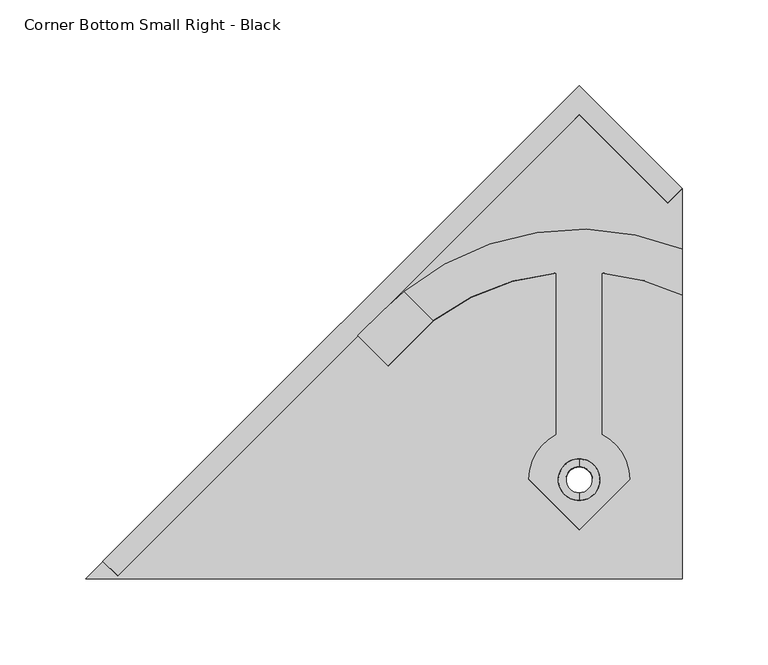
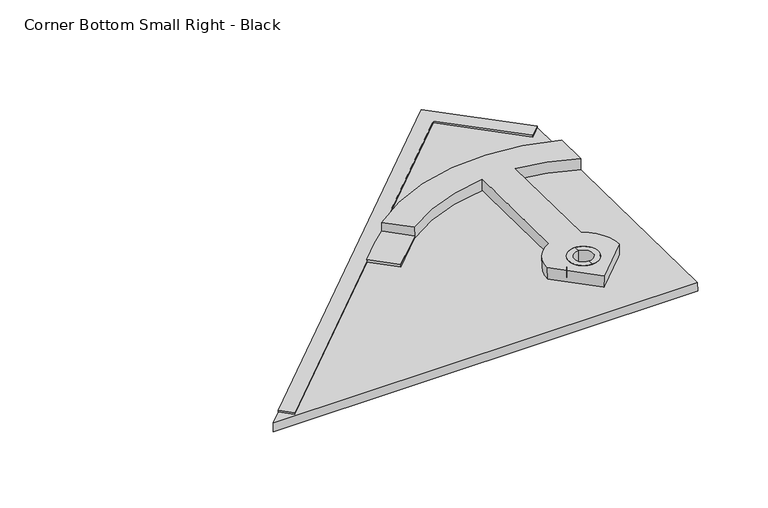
"""IFC4 building model written with IfcOpenShell, lengths in millimetres: proxy geometry, Roofing_Panels_SunStyle_Tile_Corner-Bottom-Small-Right : Corner Bottom Small Right - Black."""

from ifc_helpers import new_model, si_unit, point, frame, frame_2d, origin, place, context, project, spatial, polyline, circle_curve, trimmed, segment, composite_curve, outline, extrude, source, transform, mapped, element, save
from ifc_brep_helpers import plane_surface, cylinder_surface, revolved_surface, advanced_brep


def corner_bottom_small_right_black_c7c14b37(model_context):
    return source(origin(), model_context, "Body", "SolidModel", [
        extrude(outline(polyline([(-1e-07, -12.0), (0.0, 0.0), (392.6049641, 0.0), (392.6168819, -84.9940404), (380.616882, -84.995723), (380.6066466, -12.0), (-1e-07, -12.0)])), frame((-277.6334177, 337.4278406, 10.6525475), z_axis=(0.0, 0.016745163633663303, 0.9998597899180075), x_axis=(0.7071563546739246, 0.7069580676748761, -0.01183978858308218)), (0.0, 0.0, 1.0), 1.5),
        advanced_brep(
        [(0.0, 377.4541932, 19.983608), (0.0, 392.7869941, 19.7268217), (0.0, 397.2863628, 19.6514685), (0.0, 372.9548245, 20.0589612), (0.0, 377.186271, 3.9858513), (0.0, 392.5190711, 3.7290651), (0.0, 372.6869019, 4.0612046), (0.0, 397.0184401, 3.6537119)],
        [
            (0, 1, circle_curve(frame((0.0, 385.1205936, 19.8552149), z_axis=(0.0, -0.016745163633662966, -0.9998597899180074), x_axis=(0.0, 0.9998597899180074, -0.016745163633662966)), 7.6674755)),
            (1, 2),
            (2, 3, circle_curve(frame((0.0, 385.1205936, 19.8552149), z_axis=(0.0, 0.016745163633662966, 0.9998597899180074), x_axis=(0.0, 0.9998597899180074, -0.016745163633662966)), 12.1674751)),
            (3, 0),
            (1, 0, circle_curve(frame((0.0, 385.1205936, 19.8552149), z_axis=(0.0, -0.016745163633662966, -0.9998597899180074), x_axis=(0.0, 0.9998597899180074, -0.016745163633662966)), 7.6674755)),
            (3, 2, circle_curve(frame((0.0, 385.1205936, 19.8552149), z_axis=(0.0, 0.016745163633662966, 0.9998597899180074), x_axis=(0.0, 0.9998597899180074, -0.016745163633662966)), 12.1674751)),
            (4, 5, circle_curve(frame((0.0, 384.852671, 3.8574582), z_axis=(0.0, -0.016745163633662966, -0.9998597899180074), x_axis=(0.0, 0.9998597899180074, -0.016745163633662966)), 7.6674751)),
            (5, 1),
            (0, 4),
            (5, 4, circle_curve(frame((0.0, 384.852671, 3.8574582), z_axis=(0.0, -0.016745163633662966, -0.9998597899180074), x_axis=(0.0, 0.9998597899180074, -0.016745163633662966)), 7.6674751)),
            (6, 7, circle_curve(frame((0.0, 384.852671, 3.8574582), z_axis=(0.0, -0.016745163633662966, -0.9998597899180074), x_axis=(0.0, 0.9998597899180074, -0.016745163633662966)), 12.1674751)),
            (7, 5),
            (4, 6),
            (7, 6, circle_curve(frame((0.0, 384.852671, 3.8574582), z_axis=(0.0, -0.016745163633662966, -0.9998597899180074), x_axis=(0.0, 0.9998597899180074, -0.016745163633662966)), 12.1674751)),
            (2, 7),
            (6, 3),
        ],
        [
            plane_surface(frame((0.0, 385.1205936, 19.8552149), z_axis=(0.0, 0.016745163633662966, 0.9998597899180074), x_axis=(0.0, 0.9998597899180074, -0.016745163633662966))),
            revolved_surface(polyline([(0.0, 392.78699364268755, 19.726821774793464), (0.0, 392.5190710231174, 3.729065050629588)]), (0.0, 385.1205936, 19.8552149), (0.0, 0.016745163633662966, 0.9998597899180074)),
            plane_surface(frame((0.0, 384.852671, 3.8574582), z_axis=(0.0, -0.016745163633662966, -0.9998597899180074), x_axis=(0.0, 0.9998597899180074, -0.016745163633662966))),
            cylinder_surface(frame((0.0, 385.1205936, 19.8552149), z_axis=(0.0, 0.016745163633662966, 0.9998597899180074), x_axis=(0.0, 0.9998597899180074, -0.016745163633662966)), 12.1674751),
        ],
        [
            (0, [[1, 2, 3, 4]]),
            (0, [[5, -4, 6, -2]]),
            (1, [[7, 8, -1, 9]]),
            (1, [[10, -9, -5, -8]]),
            (2, [[11, 12, -7, 13]]),
            (2, [[14, -13, -10, -12]]),
            (3, [[-3, 15, -11, 16]]),
            (3, [[-6, -16, -14, -15]]),
        ],
    ),
        extrude(outline(polyline([(230.2296775, 12.0003225), (170.1340284, -48.1037539), (-57.391205, -48.1037539), (-57.391205, 299.6615381), (230.2296775, 12.0003225)]), holes=[composite_curve([segment(trimmed(circle_curve(frame_2d((0.0, 12.0)), 12.0), [point((0.0, 24.0))], [point((0.0, 0.0))], True, "CARTESIAN"), True, "CONTINUOUS"), segment(trimmed(circle_curve(frame_2d((0.0, 12.0)), 12.0), [point((0.0, 0.0))], [point((0.0, 24.0))], True, "CARTESIAN"), True, "CONTINUOUS")], self_intersect=False)]), frame((12.0, 384.6601016, 2.3604729), z_axis=(0.0, 0.01674516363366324, 0.9998597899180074), x_axis=(0.0, 0.9998597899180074, -0.01674516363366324)), (0.0, 0.0, 1.0), 7.5),
        advanced_brep(
        [(-128.9467134, 469.1477223, 10.9469178), (-111.2690438, 451.4725314, 11.2429333), (-84.9431983, 477.7946858, 10.8021027), (-102.0275718, 494.8742688, 10.5160622), (-114.2509691, 483.8393459, 10.7008697), (-128.9467134, 469.1058594, 8.4472683), (-114.2509691, 483.797483, 8.2012202), (-102.0275718, 494.8324058, 8.0164127), (60.1037539, 519.5218584, 7.6029258), (60.1037539, 492.7956258, 8.0505237), (13.3, 505.6435355, 7.8353532), (13.3, 411.3247133, 9.4149588), (29.3894281, 385.1205936, 9.8538126), (0.0, 355.7352863, 10.3459433), (-29.3894281, 385.1205936, 9.8538126), (-13.3, 411.3247133, 9.4149588), (-13.3, 505.6435355, 7.8353532), (-84.944396, 477.7516253, 8.3024733), (-111.2690438, 451.4306685, 8.7432838), (12.0, 385.1205936, 9.8538126), (-12.0, 385.1205936, 9.8538126), (60.1037539, 519.6893101, 17.6015237), (-102.0275718, 494.9998575, 18.0150106), (-84.944396, 477.9190769, 18.3010712), (-13.3, 505.8109871, 17.8339511), (-13.3, 411.492165, 19.4135567), (-29.3894281, 385.2880453, 19.8524105), (0.0, 355.9027379, 20.3445412), (29.3894281, 385.2880453, 19.8524105), (13.3, 411.492165, 19.4135567), (13.3, 505.8109871, 17.8339511), (60.1037539, 492.9630774, 18.0491216), (12.0, 385.2880453, 19.8524105), (-12.0, 385.2880453, 19.8524105)],
        [
            (0, 1),
            (1, 2),
            (2, 3),
            (3, 4, circle_curve(frame((0.0, 369.6043959, 12.6140208), z_axis=(0.0, 0.01674516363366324, 0.9998597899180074), x_axis=(-1.0, 0.0, 0.0)), 161.57527)),
            (4, 0),
            (5, 6),
            (6, 7, circle_curve(frame((0.0, 369.562533, 10.1143714), z_axis=(0.0, -0.01674516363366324, -0.9998597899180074), x_axis=(-1.0, 0.0, 0.0)), 161.57527)),
            (7, 8, circle_curve(frame((0.0, 369.562533, 10.1143714), z_axis=(0.0, -0.01674516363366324, -0.9998597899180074), x_axis=(-1.0, 0.0, 0.0)), 161.57527)),
            (8, 9),
            (9, 10, circle_curve(frame((0.0, 365.5555068, 10.1814791), z_axis=(0.0, 0.01674516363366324, 0.9998597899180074), x_axis=(-1.0, 0.0, 0.0)), 140.737522)),
            (10, 11),
            (11, 12, circle_curve(frame((0.0, 385.1205936, 9.8538126), z_axis=(0.0, -0.01674516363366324, -0.9998597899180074), x_axis=(-1.0, 0.0, 0.0)), 29.3894281)),
            (12, 13),
            (13, 14),
            (14, 15, circle_curve(frame((0.0, 385.1205936, 9.8538126), z_axis=(0.0, -0.01674516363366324, -0.9998597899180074), x_axis=(-1.0, 0.0, 0.0)), 29.3894281)),
            (15, 16),
            (16, 17, circle_curve(frame((0.0, 365.5555068, 10.1814791), z_axis=(0.0, 0.01674516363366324, 0.9998597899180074), x_axis=(-1.0, 0.0, 0.0)), 140.737522)),
            (17, 18),
            (18, 5),
            (19, 20, circle_curve(frame((0.0, 385.1205936, 9.8538126), z_axis=(0.0, 0.01674516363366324, 0.9998597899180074), x_axis=(-1.0, 0.0, 0.0)), 12.0)),
            (20, 19, circle_curve(frame((0.0, 385.1205936, 9.8538126), z_axis=(0.0, 0.01674516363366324, 0.9998597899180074), x_axis=(-1.0, 0.0, 0.0)), 12.0)),
            (4, 6),
            (5, 0),
            (18, 1),
            (3, 7),
            (17, 2),
            (21, 22, circle_curve(frame((0.0, 369.7299846, 20.1129693), z_axis=(0.0, 0.01674516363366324, 0.9998597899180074), x_axis=(-1.0, 0.0, 0.0)), 161.57527)),
            (22, 23),
            (23, 24, circle_curve(frame((0.0, 365.7229584, 20.180077), z_axis=(0.0, -0.01674516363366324, -0.9998597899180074), x_axis=(-1.0, 0.0, 0.0)), 140.737522)),
            (24, 25),
            (25, 26, circle_curve(frame((0.0, 385.2880453, 19.8524105), z_axis=(0.0, 0.01674516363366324, 0.9998597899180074), x_axis=(-1.0, 0.0, 0.0)), 29.3894281)),
            (26, 27),
            (27, 28),
            (28, 29, circle_curve(frame((0.0, 385.2880453, 19.8524105), z_axis=(0.0, 0.01674516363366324, 0.9998597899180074), x_axis=(-1.0, 0.0, 0.0)), 29.3894281)),
            (29, 30),
            (30, 31, circle_curve(frame((0.0, 365.7229584, 20.180077), z_axis=(0.0, -0.01674516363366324, -0.9998597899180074), x_axis=(-1.0, 0.0, 0.0)), 140.737522)),
            (31, 21),
            (32, 33, circle_curve(frame((0.0, 385.2880453, 19.8524105), z_axis=(0.0, -0.01674516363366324, -0.9998597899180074), x_axis=(-1.0, 0.0, 0.0)), 12.0)),
            (33, 32, circle_curve(frame((0.0, 385.2880453, 19.8524105), z_axis=(0.0, -0.01674516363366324, -0.9998597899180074), x_axis=(-1.0, 0.0, 0.0)), 12.0)),
            (29, 11),
            (10, 30),
            (28, 12),
            (27, 13),
            (26, 14),
            (25, 15),
            (24, 16),
            (21, 8),
            (3, 22),
            (33, 20),
            (19, 32),
            (2, 23),
            (9, 31),
        ],
        [
            plane_surface(frame((0.0, 340.2190886, 13.1061516), z_axis=(0.0, 0.016745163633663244, 0.9998597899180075), x_axis=(0.7071067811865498, -0.7070076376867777, 0.01184061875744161))),
            plane_surface(frame((0.0, 340.1772257, 10.6065021), z_axis=(0.0, -0.016745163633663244, -0.9998597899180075), x_axis=(-0.7071067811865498, 0.7070076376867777, -0.01184061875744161))),
            plane_surface(frame((-114.2509691, 483.8393459, 10.7008697), z_axis=(-0.7070572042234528, 0.7070572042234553, -0.011841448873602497), x_axis=(0.0, -0.016745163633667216, -0.9998597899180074))),
            plane_surface(frame((-128.9467134, 469.1477223, 10.9469178), z_axis=(-0.7071067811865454, -0.7070076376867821, 0.011840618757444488), x_axis=(0.0, -0.016745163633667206, -0.9998597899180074))),
            cylinder_surface(frame((0.0, 369.562533, 10.1143714), z_axis=(0.0, 0.01674516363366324, 0.9998597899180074), x_axis=(-1.0, 0.0, 0.0)), 161.57527),
            plane_surface(frame((-111.2690438, 451.4725314, 11.2429333), z_axis=(0.7071067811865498, -0.7070076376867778, 0.011840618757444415), x_axis=(0.0, -0.016745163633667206, -0.9998597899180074))),
            plane_surface(frame((-161.57527, 369.7299846, 20.1129693), z_axis=(0.0, 0.016745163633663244, 0.9998597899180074), x_axis=(0.0, -0.9998597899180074, 0.016745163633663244))),
            plane_surface(frame((13.3, 411.492165, 19.4135567), z_axis=(1.0000000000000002, 0.0, 0.0), x_axis=(0.0, -0.01674516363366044, -0.9998597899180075))),
            cylinder_surface(frame((0.0, 385.1205936, 9.8538126), z_axis=(0.0, 0.01674516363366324, 0.9998597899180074), x_axis=(-1.0, 0.0, 0.0)), 29.3894281),
            plane_surface(frame((0.0, 355.9027379, 20.3445412), z_axis=(0.7071067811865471, -0.7070076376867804, 0.011840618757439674), x_axis=(0.0, -0.01674516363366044, -0.9998597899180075))),
            plane_surface(frame((-29.3894281, 385.2880453, 19.8524105), z_axis=(-0.7071067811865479, -0.7070076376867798, 0.011840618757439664), x_axis=(0.0, -0.01674516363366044, -0.9998597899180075))),
            plane_surface(frame((-13.3, 505.8109871, 17.8339511), z_axis=(-1.0000000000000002, 0.0, 0.0), x_axis=(0.0, -0.01674516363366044, -0.9998597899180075))),
            revolved_surface(polyline([(-12.0, 385.1205936, 9.8538126), (-12.0, 385.2880452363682, 19.852410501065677)]), (0.0, 385.1205936, 9.8538126), (0.0, -0.01674516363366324, -0.9998597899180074)),
            plane_surface(frame((-102.0275718, 494.9998575, 18.0150106), z_axis=(-0.7071067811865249, -0.7070076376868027, 0.011840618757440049), x_axis=(0.0, -0.01674516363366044, -0.9998597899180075))),
            revolved_surface(polyline([(-140.737522, 365.5555067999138, 10.18147909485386), (-140.737522, 365.722958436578, 20.18007701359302)]), (0.0, 365.5555068, 10.1814791), (0.0, -0.01674516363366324, -0.9998597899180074)),
            revolved_surface(polyline([(-140.737522, 365.5555068, 10.1814791), (-140.737522, 365.72295843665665, 20.180077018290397)]), (0.0, 365.5555068, 10.1814791), (0.0, -0.01674516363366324, -0.9998597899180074)),
            plane_surface(frame((60.1037539, 492.9630774, 18.0491216), z_axis=(1.0000000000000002, 0.0, 0.0), x_axis=(0.0, -0.01674516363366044, -0.9998597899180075))),
        ],
        [
            (0, [[1, 2, 3, 4, 5]]),
            (1, [[6, 7, 8, 9, 10, 11, 12, 13, 14, 15, 16, 17, 18, 19], [20, 21]]),
            (2, [[-5, 22, -6, 23]]),
            (3, [[-1, -23, -19, 24]]),
            (4, [[-4, 25, -7, -22]]),
            (5, [[-2, -24, -18, 26]]),
            (6, [[27, 28, 29, 30, 31, 32, 33, 34, 35, 36, 37], [38, 39]]),
            (7, [[-35, 40, -11, 41]]),
            (8, [[-34, 42, -12, -40]]),
            (9, [[-33, 43, -13, -42]]),
            (10, [[-32, 44, -14, -43]]),
            (8, [[-31, 45, -15, -44]]),
            (11, [[-30, 46, -16, -45]]),
            (4, [[-27, 47, -8, -25, 48]]),
            (12, [[-39, 49, -20, 50]]),
            (12, [[-38, -50, -21, -49]]),
            (13, [[-28, -48, -3, 51]]),
            (14, [[-36, -41, -10, 52]]),
            (15, [[-29, -51, -26, -17, -46]]),
            (16, [[-37, -52, -9, -47]]),
        ],
    ),
    ])


if __name__ == "__main__":
    model = new_model("IFC4")
    model_context = context("Model", 3, world=origin())
    ifc_project = project(units=[si_unit("LENGTHUNIT", "METRE", prefix="MILLI")], contexts=[model_context])
    site = spatial("IfcSite", under=ifc_project)
    building = spatial("IfcBuilding", under=site)
    placement = place(None, origin())
    corner_bottom_small_right_black_shape = corner_bottom_small_right_black_c7c14b37(model_context)
    element("IfcBuildingElementProxy", 1, Name="Roofing_Panels_SunStyle_Tile_Corner-Bottom-Small-Right : Corner Bottom Small Right - Black", ObjectType="Roofing_Panels_SunStyle_Tile_Corner-Bottom-Small-Right : Corner Bottom Small Right - Black", at=placement, inside=building, context=model_context, shape_type="MappedRepresentation", body=[
        mapped(corner_bottom_small_right_black_shape, transform((0.0, 0.0, 0.0), x_axis=(1.0, 0.0, 0.0), y_axis=(0.0, 1.0, 0.0), z_axis=(0.0, 0.0, 1.0))),
    ])
    save(model, "model.ifc")
